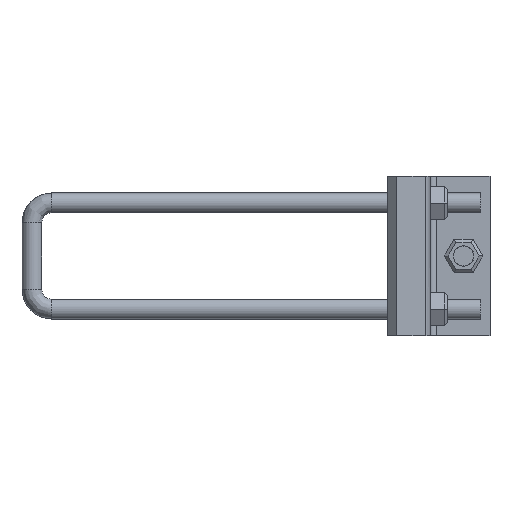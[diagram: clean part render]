
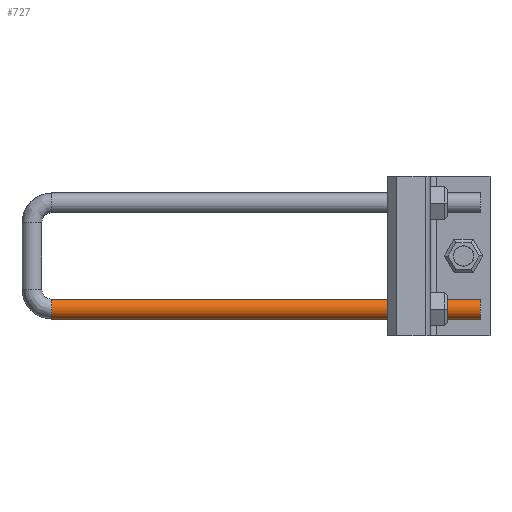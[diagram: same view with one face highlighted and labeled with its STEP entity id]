
A CAD part, left-side view. The second image highlights one B-rep face of the part: STEP entity #727.
In plain terms, the highlighted cylindrical face has radius 4.763 mm (diameter 9.525 mm), a partial arc.
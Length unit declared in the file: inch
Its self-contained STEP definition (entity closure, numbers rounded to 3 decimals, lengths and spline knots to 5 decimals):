
#727=ADVANCED_FACE('',(#1902),#1903,.T.);
#1033=EDGE_CURVE('',#2389,#2390,#2391,.T.);
#1902=FACE_OUTER_BOUND('',#3532,.T.);
#1903=CYLINDRICAL_SURFACE('',#3533,0.1875);
#2389=VERTEX_POINT('',#4386);
#2390=VERTEX_POINT('',#4387);
#2391=CIRCLE('',#4388,0.1875);
#3532=EDGE_LOOP('',(#6494,#6495,#6496,#6497));
#3533=AXIS2_PLACEMENT_3D('',#6498,#6499,#6500);
#4386=CARTESIAN_POINT('',(-6.87306,8.2507,0.6875));
#4387=CARTESIAN_POINT('',(-6.87306,8.2507,0.3125));
#4388=AXIS2_PLACEMENT_3D('',#6944,#6945,#6946);
#6494=ORIENTED_EDGE('',*,*,#8132,.F.);
#6495=ORIENTED_EDGE('',*,*,#8133,.T.);
#6496=ORIENTED_EDGE('',*,*,#8134,.F.);
#6497=ORIENTED_EDGE('',*,*,#1033,.T.);
#6498=CARTESIAN_POINT('',(-6.87306,5.06269,0.5));
#6499=DIRECTION('',(-0.0,-1.0,-0.0));
#6500=DIRECTION('',(0.0,0.0,-1.0));
#6944=CARTESIAN_POINT('',(-6.87306,8.2507,0.5));
#6945=DIRECTION('',(0.0,-1.0,0.0));
#6946=DIRECTION('',(0.0,0.0,-1.0));
#8132=EDGE_CURVE('',#8389,#2390,#8390,.T.);
#8133=EDGE_CURVE('',#8389,#8391,#8392,.T.);
#8134=EDGE_CURVE('',#2389,#8391,#8393,.T.);
#8389=VERTEX_POINT('',#8682);
#8390=LINE('',#8683,#8684);
#8391=VERTEX_POINT('',#8685);
#8392=CIRCLE('',#8686,0.1875);
#8393=LINE('',#8687,#8688);
#8682=CARTESIAN_POINT('',(-6.87306,0.18769,0.3125));
#8683=CARTESIAN_POINT('',(-6.87306,5.06269,0.3125));
#8684=VECTOR('',#8992,1.0);
#8685=CARTESIAN_POINT('',(-6.87306,0.18769,0.6875));
#8686=AXIS2_PLACEMENT_3D('',#8993,#8994,#8995);
#8687=CARTESIAN_POINT('',(-6.87306,5.06269,0.6875));
#8688=VECTOR('',#8996,1.0);
#8992=DIRECTION('',(0.0,1.0,0.0));
#8993=CARTESIAN_POINT('',(-6.87306,0.18769,0.5));
#8994=DIRECTION('',(0.0,1.0,0.0));
#8995=DIRECTION('',(0.0,0.0,-1.0));
#8996=DIRECTION('',(-0.0,-1.0,-0.0));
